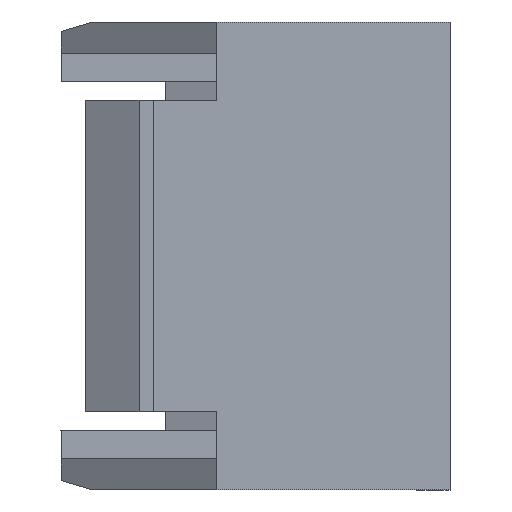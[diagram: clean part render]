
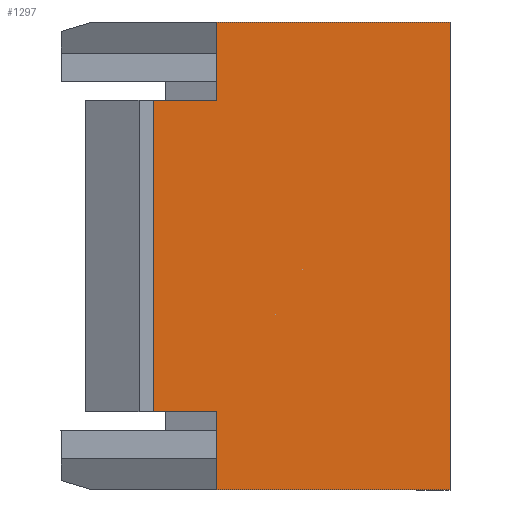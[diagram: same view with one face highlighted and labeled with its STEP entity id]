
A CAD part, front view. The second image highlights one B-rep face of the part: STEP entity #1297.
In plain terms, the highlighted planar face has unit normal (0, -1, 0).
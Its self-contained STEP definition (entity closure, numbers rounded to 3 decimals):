
#32 = PLANE('',#33);
#33 = AXIS2_PLACEMENT_3D('',#34,#35,#36);
#34 = CARTESIAN_POINT('',(0.,20.719,-5.));
#35 = DIRECTION('',(-0.,-0.,-1.));
#36 = DIRECTION('',(0.,-1.,0.));
#146 = VERTEX_POINT('',#147);
#147 = CARTESIAN_POINT('',(0.,-0.05,-5.));
#161 = PLANE('',#162);
#162 = AXIS2_PLACEMENT_3D('',#163,#164,#165);
#163 = CARTESIAN_POINT('',(0.,2.991,2.5));
#164 = DIRECTION('',(1.,0.,0.));
#165 = DIRECTION('',(-0.,1.,0.));
#173 = EDGE_CURVE('',#146,#174,#176,.T.);
#174 = VERTEX_POINT('',#175);
#175 = CARTESIAN_POINT('',(-7.5,-0.05,-5.));
#176 = SURFACE_CURVE('',#177,(#181,#188),.PCURVE_S1.);
#177 = LINE('',#178,#179);
#178 = CARTESIAN_POINT('',(0.,-0.05,-5.));
#179 = VECTOR('',#180,1.);
#180 = DIRECTION('',(-1.,0.,0.));
#181 = PCURVE('',#32,#182);
#182 = DEFINITIONAL_REPRESENTATION('',(#183),#187);
#183 = LINE('',#184,#185);
#184 = CARTESIAN_POINT('',(20.769,0.));
#185 = VECTOR('',#186,1.);
#186 = DIRECTION('',(0.,1.));
#187 = ( GEOMETRIC_REPRESENTATION_CONTEXT(2) 
PARAMETRIC_REPRESENTATION_CONTEXT() REPRESENTATION_CONTEXT('2D SPACE',''
  ) );
#188 = PCURVE('',#189,#194);
#189 = PLANE('',#190);
#190 = AXIS2_PLACEMENT_3D('',#191,#192,#193);
#191 = CARTESIAN_POINT('',(-8.525,-0.05,2.5));
#192 = DIRECTION('',(0.,-1.,0.));
#193 = DIRECTION('',(1.,0.,0.));
#194 = DEFINITIONAL_REPRESENTATION('',(#195),#199);
#195 = LINE('',#196,#197);
#196 = CARTESIAN_POINT('',(8.525,-7.5));
#197 = VECTOR('',#198,1.);
#198 = DIRECTION('',(-1.,0.));
#199 = ( GEOMETRIC_REPRESENTATION_CONTEXT(2) 
PARAMETRIC_REPRESENTATION_CONTEXT() REPRESENTATION_CONTEXT('2D SPACE',''
  ) );
#217 = PLANE('',#218);
#218 = AXIS2_PLACEMENT_3D('',#219,#220,#221);
#219 = CARTESIAN_POINT('',(-7.5,0.,-5.));
#220 = DIRECTION('',(-1.,0.,0.));
#221 = DIRECTION('',(0.,1.,0.));
#463 = EDGE_CURVE('',#464,#174,#466,.T.);
#464 = VERTEX_POINT('',#465);
#465 = CARTESIAN_POINT('',(-7.5,-0.05,-2.5));
#466 = SURFACE_CURVE('',#467,(#471,#478),.PCURVE_S1.);
#467 = LINE('',#468,#469);
#468 = CARTESIAN_POINT('',(-7.5,-0.05,-2.5));
#469 = VECTOR('',#470,1.);
#470 = DIRECTION('',(0.,0.,-1.));
#471 = PCURVE('',#217,#472);
#472 = DEFINITIONAL_REPRESENTATION('',(#473),#477);
#473 = LINE('',#474,#475);
#474 = CARTESIAN_POINT('',(-0.05,-2.5));
#475 = VECTOR('',#476,1.);
#476 = DIRECTION('',(0.,1.));
#477 = ( GEOMETRIC_REPRESENTATION_CONTEXT(2) 
PARAMETRIC_REPRESENTATION_CONTEXT() REPRESENTATION_CONTEXT('2D SPACE',''
  ) );
#478 = PCURVE('',#189,#479);
#479 = DEFINITIONAL_REPRESENTATION('',(#480),#484);
#480 = LINE('',#481,#482);
#481 = CARTESIAN_POINT('',(1.025,-5.));
#482 = VECTOR('',#483,1.);
#483 = DIRECTION('',(0.,-1.));
#484 = ( GEOMETRIC_REPRESENTATION_CONTEXT(2) 
PARAMETRIC_REPRESENTATION_CONTEXT() REPRESENTATION_CONTEXT('2D SPACE',''
  ) );
#502 = PLANE('',#503);
#503 = AXIS2_PLACEMENT_3D('',#504,#505,#506);
#504 = CARTESIAN_POINT('',(-11.7,-2.265,-2.5));
#505 = DIRECTION('',(0.,0.,-1.));
#506 = DIRECTION('',(0.,1.,0.));
#880 = VERTEX_POINT('',#881);
#881 = CARTESIAN_POINT('',(-9.55,-0.05,-2.5));
#895 = PLANE('',#896);
#896 = AXIS2_PLACEMENT_3D('',#897,#898,#899);
#897 = CARTESIAN_POINT('',(-9.55,-4.275,2.5));
#898 = DIRECTION('',(1.,0.,0.));
#899 = DIRECTION('',(0.,1.,0.));
#1013 = EDGE_CURVE('',#880,#464,#1014,.T.);
#1014 = SURFACE_CURVE('',#1015,(#1019,#1026),.PCURVE_S1.);
#1015 = LINE('',#1016,#1017);
#1016 = CARTESIAN_POINT('',(-9.55,-0.05,-2.5));
#1017 = VECTOR('',#1018,1.);
#1018 = DIRECTION('',(1.,0.,0.));
#1019 = PCURVE('',#502,#1020);
#1020 = DEFINITIONAL_REPRESENTATION('',(#1021),#1025);
#1021 = LINE('',#1022,#1023);
#1022 = CARTESIAN_POINT('',(2.215,2.15));
#1023 = VECTOR('',#1024,1.);
#1024 = DIRECTION('',(0.,1.));
#1025 = ( GEOMETRIC_REPRESENTATION_CONTEXT(2) 
PARAMETRIC_REPRESENTATION_CONTEXT() REPRESENTATION_CONTEXT('2D SPACE',''
  ) );
#1026 = PCURVE('',#189,#1027);
#1027 = DEFINITIONAL_REPRESENTATION('',(#1028),#1032);
#1028 = LINE('',#1029,#1030);
#1029 = CARTESIAN_POINT('',(-1.025,-5.));
#1030 = VECTOR('',#1031,1.);
#1031 = DIRECTION('',(1.,0.));
#1032 = ( GEOMETRIC_REPRESENTATION_CONTEXT(2) 
PARAMETRIC_REPRESENTATION_CONTEXT() REPRESENTATION_CONTEXT('2D SPACE',''
  ) );
#1104 = PLANE('',#1105);
#1105 = AXIS2_PLACEMENT_3D('',#1106,#1107,#1108);
#1106 = CARTESIAN_POINT('',(0.,0.,10.));
#1107 = DIRECTION('',(0.,0.,1.));
#1108 = DIRECTION('',(1.,0.,-0.));
#1297 = ADVANCED_FACE('',(#1298),#189,.T.);
#1298 = FACE_BOUND('',#1299,.T.);
#1299 = EDGE_LOOP('',(#1300,#1301,#1324,#1347,#1375,#1403,#1424,#1425));
#1300 = ORIENTED_EDGE('',*,*,#173,.F.);
#1301 = ORIENTED_EDGE('',*,*,#1302,.F.);
#1302 = EDGE_CURVE('',#1303,#146,#1305,.T.);
#1303 = VERTEX_POINT('',#1304);
#1304 = CARTESIAN_POINT('',(0.,-0.05,10.));
#1305 = SURFACE_CURVE('',#1306,(#1310,#1317),.PCURVE_S1.);
#1306 = LINE('',#1307,#1308);
#1307 = CARTESIAN_POINT('',(0.,-0.05,10.));
#1308 = VECTOR('',#1309,1.);
#1309 = DIRECTION('',(0.,0.,-1.));
#1310 = PCURVE('',#189,#1311);
#1311 = DEFINITIONAL_REPRESENTATION('',(#1312),#1316);
#1312 = LINE('',#1313,#1314);
#1313 = CARTESIAN_POINT('',(8.525,7.5));
#1314 = VECTOR('',#1315,1.);
#1315 = DIRECTION('',(0.,-1.));
#1316 = ( GEOMETRIC_REPRESENTATION_CONTEXT(2) 
PARAMETRIC_REPRESENTATION_CONTEXT() REPRESENTATION_CONTEXT('2D SPACE',''
  ) );
#1317 = PCURVE('',#161,#1318);
#1318 = DEFINITIONAL_REPRESENTATION('',(#1319),#1323);
#1319 = LINE('',#1320,#1321);
#1320 = CARTESIAN_POINT('',(-3.041,7.5));
#1321 = VECTOR('',#1322,1.);
#1322 = DIRECTION('',(0.,-1.));
#1323 = ( GEOMETRIC_REPRESENTATION_CONTEXT(2) 
PARAMETRIC_REPRESENTATION_CONTEXT() REPRESENTATION_CONTEXT('2D SPACE',''
  ) );
#1324 = ORIENTED_EDGE('',*,*,#1325,.F.);
#1325 = EDGE_CURVE('',#1326,#1303,#1328,.T.);
#1326 = VERTEX_POINT('',#1327);
#1327 = CARTESIAN_POINT('',(-7.5,-0.05,10.));
#1328 = SURFACE_CURVE('',#1329,(#1333,#1340),.PCURVE_S1.);
#1329 = LINE('',#1330,#1331);
#1330 = CARTESIAN_POINT('',(-7.5,-0.05,10.));
#1331 = VECTOR('',#1332,1.);
#1332 = DIRECTION('',(1.,0.,0.));
#1333 = PCURVE('',#189,#1334);
#1334 = DEFINITIONAL_REPRESENTATION('',(#1335),#1339);
#1335 = LINE('',#1336,#1337);
#1336 = CARTESIAN_POINT('',(1.025,7.5));
#1337 = VECTOR('',#1338,1.);
#1338 = DIRECTION('',(1.,0.));
#1339 = ( GEOMETRIC_REPRESENTATION_CONTEXT(2) 
PARAMETRIC_REPRESENTATION_CONTEXT() REPRESENTATION_CONTEXT('2D SPACE',''
  ) );
#1340 = PCURVE('',#1104,#1341);
#1341 = DEFINITIONAL_REPRESENTATION('',(#1342),#1346);
#1342 = LINE('',#1343,#1344);
#1343 = CARTESIAN_POINT('',(-7.5,-0.05));
#1344 = VECTOR('',#1345,1.);
#1345 = DIRECTION('',(1.,0.));
#1346 = ( GEOMETRIC_REPRESENTATION_CONTEXT(2) 
PARAMETRIC_REPRESENTATION_CONTEXT() REPRESENTATION_CONTEXT('2D SPACE',''
  ) );
#1347 = ORIENTED_EDGE('',*,*,#1348,.F.);
#1348 = EDGE_CURVE('',#1349,#1326,#1351,.T.);
#1349 = VERTEX_POINT('',#1350);
#1350 = CARTESIAN_POINT('',(-7.5,-0.05,7.5));
#1351 = SURFACE_CURVE('',#1352,(#1356,#1363),.PCURVE_S1.);
#1352 = LINE('',#1353,#1354);
#1353 = CARTESIAN_POINT('',(-7.5,-0.05,7.5));
#1354 = VECTOR('',#1355,1.);
#1355 = DIRECTION('',(0.,0.,1.));
#1356 = PCURVE('',#189,#1357);
#1357 = DEFINITIONAL_REPRESENTATION('',(#1358),#1362);
#1358 = LINE('',#1359,#1360);
#1359 = CARTESIAN_POINT('',(1.025,5.));
#1360 = VECTOR('',#1361,1.);
#1361 = DIRECTION('',(0.,1.));
#1362 = ( GEOMETRIC_REPRESENTATION_CONTEXT(2) 
PARAMETRIC_REPRESENTATION_CONTEXT() REPRESENTATION_CONTEXT('2D SPACE',''
  ) );
#1363 = PCURVE('',#1364,#1369);
#1364 = PLANE('',#1365);
#1365 = AXIS2_PLACEMENT_3D('',#1366,#1367,#1368);
#1366 = CARTESIAN_POINT('',(-7.5,8.8,-10.));
#1367 = DIRECTION('',(-1.,0.,0.));
#1368 = DIRECTION('',(0.,-1.,0.));
#1369 = DEFINITIONAL_REPRESENTATION('',(#1370),#1374);
#1370 = LINE('',#1371,#1372);
#1371 = CARTESIAN_POINT('',(8.85,17.5));
#1372 = VECTOR('',#1373,1.);
#1373 = DIRECTION('',(0.,1.));
#1374 = ( GEOMETRIC_REPRESENTATION_CONTEXT(2) 
PARAMETRIC_REPRESENTATION_CONTEXT() REPRESENTATION_CONTEXT('2D SPACE',''
  ) );
#1375 = ORIENTED_EDGE('',*,*,#1376,.T.);
#1376 = EDGE_CURVE('',#1349,#1377,#1379,.T.);
#1377 = VERTEX_POINT('',#1378);
#1378 = CARTESIAN_POINT('',(-9.55,-0.05,7.5));
#1379 = SURFACE_CURVE('',#1380,(#1384,#1391),.PCURVE_S1.);
#1380 = LINE('',#1381,#1382);
#1381 = CARTESIAN_POINT('',(-7.5,-0.05,7.5));
#1382 = VECTOR('',#1383,1.);
#1383 = DIRECTION('',(-1.,0.,0.));
#1384 = PCURVE('',#189,#1385);
#1385 = DEFINITIONAL_REPRESENTATION('',(#1386),#1390);
#1386 = LINE('',#1387,#1388);
#1387 = CARTESIAN_POINT('',(1.025,5.));
#1388 = VECTOR('',#1389,1.);
#1389 = DIRECTION('',(-1.,0.));
#1390 = ( GEOMETRIC_REPRESENTATION_CONTEXT(2) 
PARAMETRIC_REPRESENTATION_CONTEXT() REPRESENTATION_CONTEXT('2D SPACE',''
  ) );
#1391 = PCURVE('',#1392,#1397);
#1392 = PLANE('',#1393);
#1393 = AXIS2_PLACEMENT_3D('',#1394,#1395,#1396);
#1394 = CARTESIAN_POINT('',(-7.5,1.,7.5));
#1395 = DIRECTION('',(0.,0.,1.));
#1396 = DIRECTION('',(-1.,0.,0.));
#1397 = DEFINITIONAL_REPRESENTATION('',(#1398),#1402);
#1398 = LINE('',#1399,#1400);
#1399 = CARTESIAN_POINT('',(0.,1.05));
#1400 = VECTOR('',#1401,1.);
#1401 = DIRECTION('',(1.,0.));
#1402 = ( GEOMETRIC_REPRESENTATION_CONTEXT(2) 
PARAMETRIC_REPRESENTATION_CONTEXT() REPRESENTATION_CONTEXT('2D SPACE',''
  ) );
#1403 = ORIENTED_EDGE('',*,*,#1404,.T.);
#1404 = EDGE_CURVE('',#1377,#880,#1405,.T.);
#1405 = SURFACE_CURVE('',#1406,(#1410,#1417),.PCURVE_S1.);
#1406 = LINE('',#1407,#1408);
#1407 = CARTESIAN_POINT('',(-9.55,-0.05,7.5));
#1408 = VECTOR('',#1409,1.);
#1409 = DIRECTION('',(0.,0.,-1.));
#1410 = PCURVE('',#189,#1411);
#1411 = DEFINITIONAL_REPRESENTATION('',(#1412),#1416);
#1412 = LINE('',#1413,#1414);
#1413 = CARTESIAN_POINT('',(-1.025,5.));
#1414 = VECTOR('',#1415,1.);
#1415 = DIRECTION('',(0.,-1.));
#1416 = ( GEOMETRIC_REPRESENTATION_CONTEXT(2) 
PARAMETRIC_REPRESENTATION_CONTEXT() REPRESENTATION_CONTEXT('2D SPACE',''
  ) );
#1417 = PCURVE('',#895,#1418);
#1418 = DEFINITIONAL_REPRESENTATION('',(#1419),#1423);
#1419 = LINE('',#1420,#1421);
#1420 = CARTESIAN_POINT('',(4.225,5.));
#1421 = VECTOR('',#1422,1.);
#1422 = DIRECTION('',(0.,-1.));
#1423 = ( GEOMETRIC_REPRESENTATION_CONTEXT(2) 
PARAMETRIC_REPRESENTATION_CONTEXT() REPRESENTATION_CONTEXT('2D SPACE',''
  ) );
#1424 = ORIENTED_EDGE('',*,*,#1013,.T.);
#1425 = ORIENTED_EDGE('',*,*,#463,.T.);
